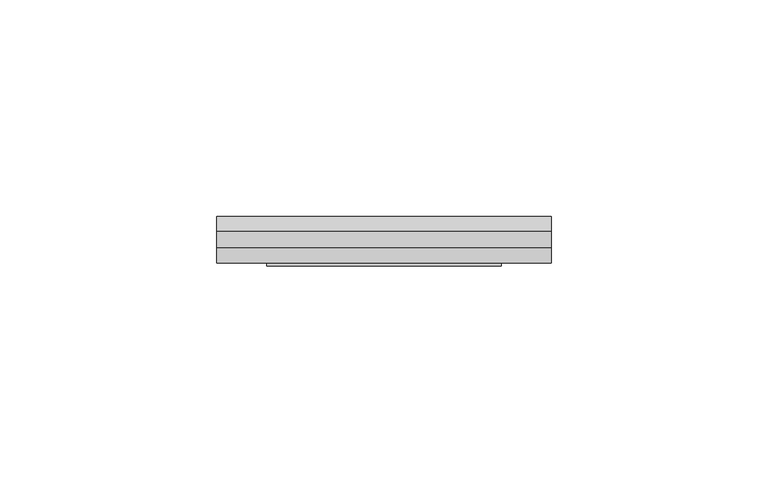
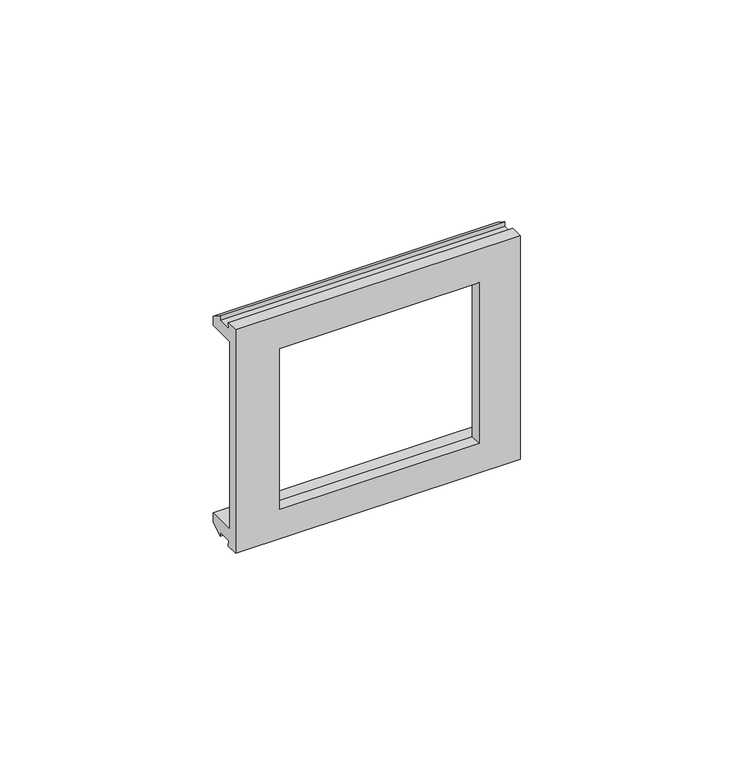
"""IFC4 building model written with IfcOpenShell, lengths in millimetres: proxy geometry."""

from ifc_helpers import new_model, si_unit, frame, origin, place, context, project, spatial, polyline, circle_curve, source, transform, mapped, element, save
from ifc_brep_helpers import plane_surface, cylinder_surface, revolved_surface, advanced_brep


def electrical_fixtures_3a738e40(model_context):
    return source(origin(), model_context, "Body", "AdvancedBrep", [
        advanced_brep(
        [(38.5, -3.5, 32.0), (38.5, -3.5, -32.0), (38.5, 0.0, -32.0), (38.5, -0.1920215, -30.3542211), (38.5, 3.8395952, -30.3542211), (38.5, 3.8395952, -31.5769261), (38.5, 7.1871999, -29.457495), (38.5, 7.1871999, -26.8043792), (38.5, -0.5712834, -26.8043792), (38.5, -0.5712834, 26.8043792), (38.5, 7.1871999, 26.8043792), (38.5, 7.1871999, 29.457495), (38.5, 3.8395952, 31.5769261), (38.5, 3.8395952, 30.3542211), (38.5, -0.1920215, 30.3542211), (38.5, 0.0, 32.0), (-38.5, -3.5, 32.0), (-38.5, 0.0, 32.0), (-38.5, -0.1920215, 30.3542211), (-38.5, 3.8395952, 30.3542211), (-38.5, 3.8395952, 31.5769261), (-38.5, 7.1871999, 29.457495), (-38.5, 7.1871999, 26.8043792), (-38.5, -0.5712834, 26.8043792), (-38.5, -0.5712834, -26.8043792), (-38.5, 7.1871999, -26.8043792), (-38.5, 7.1871999, -29.457495), (-38.5, 3.8395952, -31.5769261), (-38.5, 3.8395952, -30.3542211), (-38.5, -0.1920215, -30.3542211), (-38.5, 0.0, -32.0), (-38.5, -3.5, -32.0), (27.0, -4.1351573, 23.0), (27.0, -4.1351573, -23.0), (-27.0, -4.1351573, -23.0), (-27.0, -4.1351573, 23.0), (27.0, -0.9249591, -23.0), (27.0, -0.9249591, 23.0), (-27.0, -0.9249591, 23.0), (-27.0, -0.9249591, -23.0)],
        [
            (0, 1, circle_curve(frame((38.5, 385.8496712, 0.0), z_axis=(1.0, 0.0, 0.0), x_axis=(0.0, 1.0, 0.0)), 390.6624713)),
            (1, 2),
            (2, 3, circle_curve(frame((38.5, 267.1169132, 0.0), z_axis=(-1.0, 0.0, 0.0), x_axis=(0.0, 1.0, 0.0)), 269.0268487)),
            (3, 4),
            (4, 5),
            (5, 6),
            (6, 7),
            (7, 8),
            (8, 9, circle_curve(frame((38.5, 267.1169132, 0.0), z_axis=(-1.0, 0.0, 0.0), x_axis=(0.0, 1.0, 0.0)), 269.0268487)),
            (9, 10),
            (10, 11),
            (11, 12),
            (12, 13),
            (13, 14),
            (14, 15, circle_curve(frame((38.5, 267.1169132, 0.0), z_axis=(-1.0, 0.0, 0.0), x_axis=(0.0, 1.0, 0.0)), 269.0268487)),
            (15, 0),
            (16, 17),
            (17, 18, circle_curve(frame((-38.5, 267.1169132, 0.0), z_axis=(1.0, 0.0, 0.0), x_axis=(0.0, 1.0, 0.0)), 269.0268487)),
            (18, 19),
            (19, 20),
            (20, 21),
            (21, 22),
            (22, 23),
            (23, 24, circle_curve(frame((-38.5, 267.1169132, 0.0), z_axis=(1.0, 0.0, 0.0), x_axis=(0.0, 1.0, 0.0)), 269.0268487)),
            (24, 25),
            (25, 26),
            (26, 27),
            (27, 28),
            (28, 29),
            (29, 30, circle_curve(frame((-38.5, 267.1169132, 0.0), z_axis=(1.0, 0.0, 0.0), x_axis=(0.0, 1.0, 0.0)), 269.0268487)),
            (30, 31),
            (31, 16, circle_curve(frame((-38.5, 385.8496712, 0.0), z_axis=(-1.0, 0.0, 0.0), x_axis=(0.0, 1.0, 0.0)), 390.6624713)),
            (0, 16),
            (31, 1),
            (32, 33, circle_curve(frame((27.0, 385.8496712, 0.0), z_axis=(1.0, 0.0, 0.0), x_axis=(0.0, 1.0, 0.0)), 390.6624713)),
            (33, 34),
            (34, 35, circle_curve(frame((-27.0, 385.8496712, 0.0), z_axis=(-1.0, 0.0, 0.0), x_axis=(0.0, 1.0, 0.0)), 390.6624713)),
            (35, 32),
            (30, 2),
            (29, 3),
            (15, 17),
            (36, 33),
            (32, 37),
            (37, 36, circle_curve(frame((27.0, 267.1169132, 0.0), z_axis=(1.0, 0.0, 0.0), x_axis=(0.0, 1.0, 0.0)), 269.0268487)),
            (35, 38),
            (38, 37),
            (34, 39),
            (39, 38, circle_curve(frame((-27.0, 267.1169132, 0.0), z_axis=(-1.0, 0.0, 0.0), x_axis=(0.0, 1.0, 0.0)), 269.0268487)),
            (36, 39),
            (28, 4),
            (27, 5),
            (26, 6),
            (25, 7),
            (24, 8),
            (23, 9),
            (22, 10),
            (21, 11),
            (20, 12),
            (19, 13),
            (18, 14),
        ],
        [
            plane_surface(frame((38.5, 776.5121425, 0.0), z_axis=(1.0, 0.0, 0.0), x_axis=(0.0, 0.0, 1.0))),
            plane_surface(frame((-38.5, 776.5121425, 0.0), z_axis=(-1.0, 0.0, 0.0), x_axis=(0.0, 0.0, -1.0))),
            cylinder_surface(frame((-38.5, 385.8496712, 0.0), z_axis=(1.0, 0.0, 0.0), x_axis=(0.0, 1.0, 0.0)), 390.6624713),
            plane_surface(frame((38.5, -3.5, -32.0), z_axis=(0.0, 0.0, -1.0), x_axis=(-1.0, 0.0, 0.0))),
            revolved_surface(polyline([(-38.5, 536.1437619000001, 0.0), (38.5, 536.1437619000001, 0.0)]), (-38.5, 267.1169132, 0.0), (-1.0, 0.0, 0.0)),
            plane_surface(frame((38.5, 0.0, 32.0), z_axis=(0.0, 0.0, 1.0), x_axis=(-1.0, 0.0, 0.0))),
            plane_surface(frame((27.0, -5.8409784, -23.0), z_axis=(-1.0, 0.0, 0.0), x_axis=(0.0, 1.0, 0.0))),
            plane_surface(frame((27.0, -5.8409784, 23.0), z_axis=(0.0, 0.0, -1.0), x_axis=(0.0, 1.0, 0.0))),
            plane_surface(frame((-27.0, -5.8409784, 23.0), z_axis=(1.0, 0.0, 0.0), x_axis=(0.0, 1.0, 0.0))),
            plane_surface(frame((-27.0, -5.8409784, -23.0), z_axis=(0.0, 0.0, 1.0), x_axis=(0.0, 1.0, 0.0))),
            plane_surface(frame((38.5, -0.1920215, -30.3542211), z_axis=(0.0, 0.0, -1.0), x_axis=(-1.0, 0.0, 0.0))),
            plane_surface(frame((38.5, 3.8395952, -30.3542211), z_axis=(0.0, -1.0, 0.0), x_axis=(-1.0, 0.0, 0.0))),
            plane_surface(frame((38.5, 3.8395952, -31.5769261), z_axis=(0.0, 0.5349226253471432, -0.8449010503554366), x_axis=(-1.0, 0.0, 0.0))),
            plane_surface(frame((38.5, 7.1871999, -29.457495), z_axis=(0.0, 1.0, 0.0), x_axis=(-1.0, 0.0, 0.0))),
            plane_surface(frame((38.5, 7.1871999, -26.8043792), z_axis=(0.0, 0.0, 1.0), x_axis=(-1.0, 0.0, 0.0))),
            plane_surface(frame((38.5, -0.5712834, 26.8043792), z_axis=(0.0, 0.0, -1.0), x_axis=(-1.0, 0.0, 0.0))),
            plane_surface(frame((38.5, 7.1871999, 26.8043792), z_axis=(0.0, 1.0, 0.0), x_axis=(-1.0, 0.0, 0.0))),
            plane_surface(frame((38.5, 7.1871999, 29.457495), z_axis=(0.0, 0.5349226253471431, 0.8449010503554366), x_axis=(-1.0, 0.0, 0.0))),
            plane_surface(frame((38.5, 3.8395952, 31.5769261), z_axis=(0.0, -1.0, 0.0), x_axis=(-1.0, 0.0, 0.0))),
            plane_surface(frame((38.5, 3.8395952, 30.3542211), z_axis=(0.0, 0.0, 1.0), x_axis=(-1.0, 0.0, 0.0))),
        ],
        [
            (0, [[1, 2, 3, 4, 5, 6, 7, 8, 9, 10, 11, 12, 13, 14, 15, 16]]),
            (1, [[17, 18, 19, 20, 21, 22, 23, 24, 25, 26, 27, 28, 29, 30, 31, 32]]),
            (2, [[-1, 33, -32, 34], [35, 36, 37, 38]]),
            (3, [[-2, -34, -31, 39]]),
            (4, [[-3, -39, -30, 40]]),
            (5, [[-16, 41, -17, -33]]),
            (6, [[42, -35, 43, 44]]),
            (7, [[-43, -38, 45, 46]]),
            (8, [[-45, -37, 47, 48]]),
            (9, [[-42, 49, -47, -36]]),
            (10, [[-4, -40, -29, 50]]),
            (11, [[-5, -50, -28, 51]]),
            (12, [[-6, -51, -27, 52]]),
            (13, [[-7, -52, -26, 53]]),
            (14, [[-8, -53, -25, 54]]),
            (4, [[-9, -54, -24, 55], [-44, -46, -48, -49]]),
            (15, [[-10, -55, -23, 56]]),
            (16, [[-11, -56, -22, 57]]),
            (17, [[-12, -57, -21, 58]]),
            (18, [[-13, -58, -20, 59]]),
            (19, [[-14, -59, -19, 60]]),
            (4, [[-15, -60, -18, -41]]),
        ],
    ),
    ])


if __name__ == "__main__":
    model = new_model("IFC4")
    model_context = context("Model", 3, world=origin())
    ifc_project = project(units=[si_unit("LENGTHUNIT", "METRE", prefix="MILLI")], contexts=[model_context])
    site = spatial("IfcSite", under=ifc_project)
    building = spatial("IfcBuilding", under=site)
    placement = place(None, origin())
    electrical_fixtures_shape = electrical_fixtures_3a738e40(model_context)
    element("IfcBuildingElementProxy", 1, Name="Electrical Fixtures", at=placement, inside=building, context=model_context, shape_type="MappedRepresentation", body=[
        mapped(electrical_fixtures_shape, transform((0.0, 0.0, 0.0), x_axis=(1.0, 0.0, 0.0), y_axis=(0.0, 1.0, 0.0), z_axis=(0.0, 0.0, 1.0))),
    ])
    save(model, "model.ifc")
